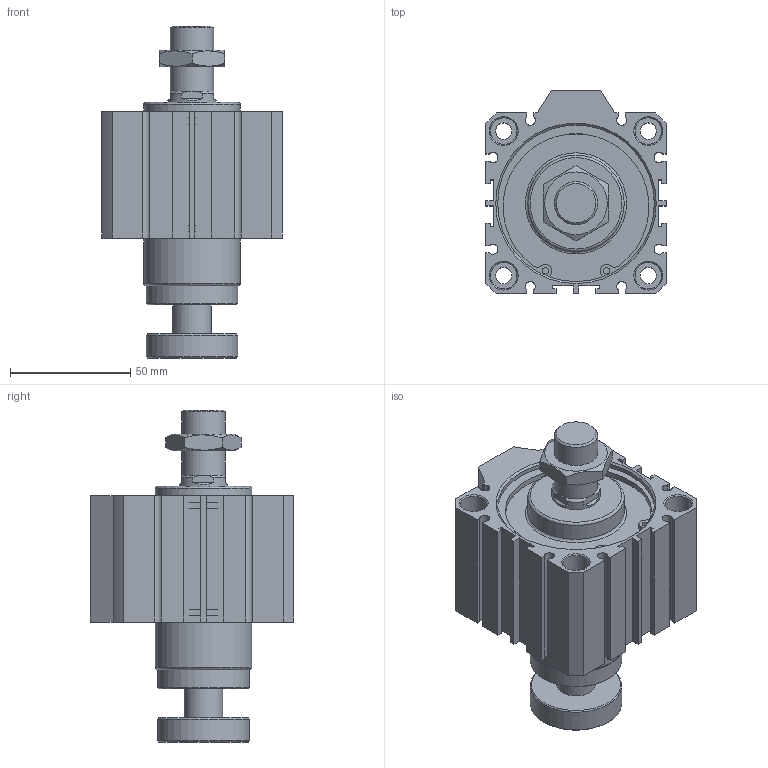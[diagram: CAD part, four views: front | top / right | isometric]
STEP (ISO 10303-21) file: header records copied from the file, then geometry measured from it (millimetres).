
FILE_DESCRIPTION((''),'2;1');
FILE_NAME('I:\3D電子目錄\氣缸\JDAR\JDAR-B\JDAR63-B\JDAR63x20-B.stp','2007-05-05T09:14:26',('662F206'),(''),'Autodesk Inventor 11','Autodesk Inventor 11','');
FILE_SCHEMA(('AUTOMOTIVE_DESIGN { 1 0 10303 214 1 1 1 1 }'));
Length unit declared in the file: millimetre
Products named in the file (3): JDAR63x20-B; JDAR63-B; R 形環 65
Assembly tree (3 placements, depth 2):
  JDAR63x20-B
    JDAR63-B
    R 形環 65  x2
Bounding box: 75 x 84.5 x 137.8 mm (x, y, z)
Volume: 320399 mm3; surface area: 59513 mm2
Topology: 3 solids, 3 shells, 201 faces, 487 edges, 317 vertices
Faces by surface type: plane 117, cylinder 56, cone 24, bspline 2, torus 2
Full cylindrical faces by diameter (mm): 2.7 x4, 3 x2, 6.8 x4, 11 x8, 16 x1, 18 x2, 20 x1, 38 x2, 40 x2, 65 x4, 68 x2
Entity records: 5557 total; most frequent: CARTESIAN_POINT 1199, DIRECTION 894, ORIENTED_EDGE 794, EDGE_CURVE 397, AXIS2_PLACEMENT_3D 324, VERTEX_POINT 291, EDGE_LOOP 280, VECTOR 246
